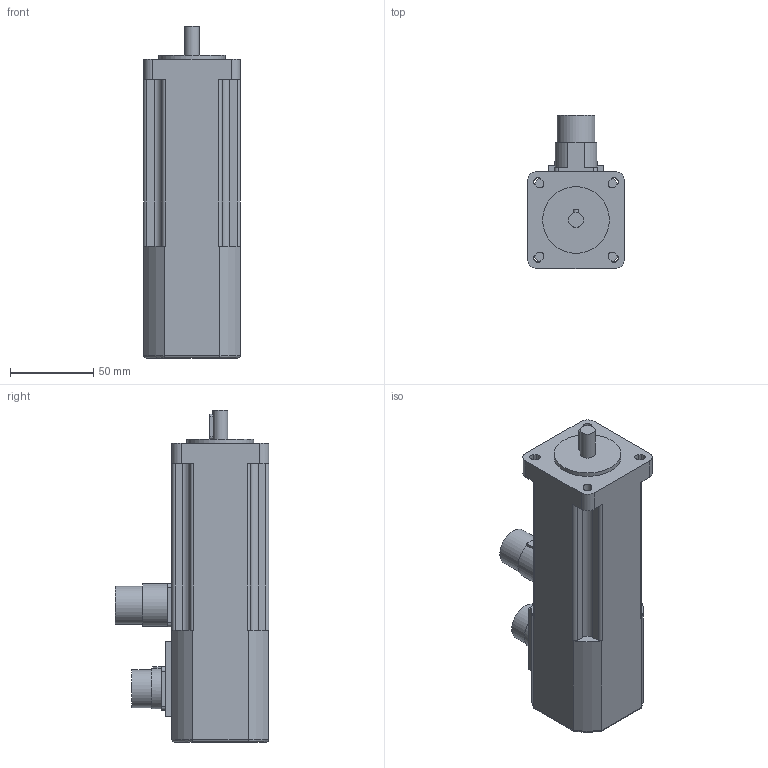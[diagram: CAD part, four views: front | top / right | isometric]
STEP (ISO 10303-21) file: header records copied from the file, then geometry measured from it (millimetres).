
FILE_DESCRIPTION(/* description */ (''),/* implementation_level */ '2;1');
FILE_NAME(/* name */ '\\Lafnas01\disegni\Archivi Lafert\3D\CAD 3D\MODELLI\Assiemi clienti\Serad\Modelli 3D Serad\B28I\Encoder\Enc Without Brake\B28D6Ixx4ARx0033.ipt.stp',/* time_stamp */ '2015-09-07T10:48:05+02:00',/* author */ ('Pastrello Ylenia'),/* organization */ (''),/* preprocessor_version */ 'ST-DEVELOPER v15.6',/* originating_system */ 'Autodesk Inventor 2015',/* authorisation */ '');
FILE_SCHEMA (('AUTOMOTIVE_DESIGN { 1 0 10303 214 3 1 1 }'));
Length unit declared in the file: millimetre
Products named in the file (1): B28D6Ixx4ARx0033
Bounding box: 58 x 92 x 199 mm (x, y, z)
Volume: 571107.3 mm3; surface area: 51877.5 mm2
Topology: 1 solids, 1 shells, 138 faces, 368 edges, 239 vertices
Faces by surface type: plane 76, cylinder 58, torus 4
Full cylindrical faces by diameter (mm): 9 x1, 22.7 x2, 24 x1, 40 x1
Entity records: 4389 total; most frequent: CARTESIAN_POINT 872, DIRECTION 741, ORIENTED_EDGE 720, EDGE_CURVE 359, AXIS2_PLACEMENT_3D 255, VERTEX_POINT 236, LINE 231, VECTOR 231
